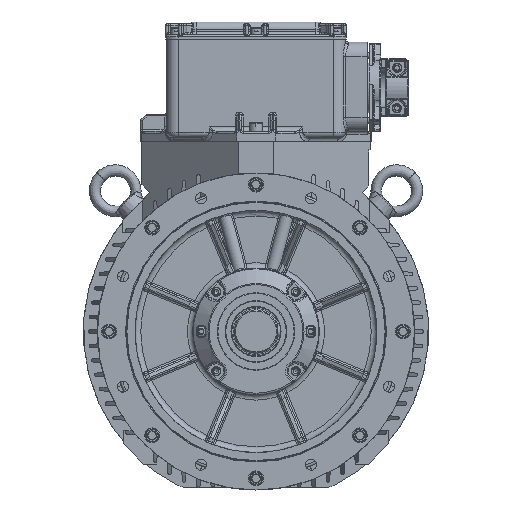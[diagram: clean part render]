
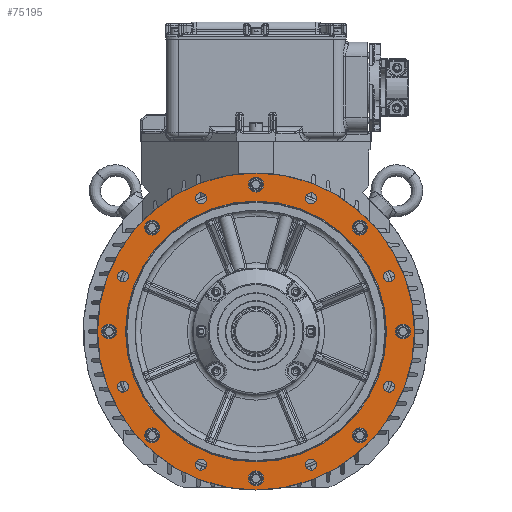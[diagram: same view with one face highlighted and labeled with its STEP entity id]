
A CAD part, left-side view. The second image highlights one B-rep face of the part: STEP entity #75195.
In plain terms, the highlighted planar face has unit normal (-1, 0, 0).
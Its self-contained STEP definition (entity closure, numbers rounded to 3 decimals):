
#1667=PLANE('',#79556);
#10981=CIRCLE('',#79544,275.);
#10982=CIRCLE('',#79554,226.4);
#10984=CIRCLE('',#79557,9.5);
#10985=CIRCLE('',#79558,9.5);
#10986=CIRCLE('',#79559,9.5);
#10987=CIRCLE('',#79560,9.5);
#10988=CIRCLE('',#79561,9.5);
#10989=CIRCLE('',#79562,9.5);
#10990=CIRCLE('',#79563,9.5);
#10991=CIRCLE('',#79564,9.5);
#10992=CIRCLE('',#79565,13.);
#10993=CIRCLE('',#79566,13.);
#10994=CIRCLE('',#79567,13.);
#10995=CIRCLE('',#79568,13.);
#10996=CIRCLE('',#79569,13.);
#10997=CIRCLE('',#79570,13.);
#10998=CIRCLE('',#79571,13.);
#10999=CIRCLE('',#79572,13.);
#18920=ORIENTED_EDGE('',*,*,#31984,.F.);
#18921=ORIENTED_EDGE('',*,*,#31985,.F.);
#18922=ORIENTED_EDGE('',*,*,#31986,.F.);
#18923=ORIENTED_EDGE('',*,*,#31987,.F.);
#18924=ORIENTED_EDGE('',*,*,#31988,.F.);
#18925=ORIENTED_EDGE('',*,*,#31989,.F.);
#18926=ORIENTED_EDGE('',*,*,#31990,.F.);
#18927=ORIENTED_EDGE('',*,*,#31991,.F.);
#18928=ORIENTED_EDGE('',*,*,#31992,.T.);
#18929=ORIENTED_EDGE('',*,*,#31993,.T.);
#18930=ORIENTED_EDGE('',*,*,#31994,.T.);
#18931=ORIENTED_EDGE('',*,*,#31995,.T.);
#18932=ORIENTED_EDGE('',*,*,#31996,.T.);
#18933=ORIENTED_EDGE('',*,*,#31997,.T.);
#18934=ORIENTED_EDGE('',*,*,#31998,.T.);
#18935=ORIENTED_EDGE('',*,*,#31999,.T.);
#18936=ORIENTED_EDGE('',*,*,#31980,.T.);
#18937=ORIENTED_EDGE('',*,*,#31982,.F.);
#31980=EDGE_CURVE('',#38864,#38864,#10981,.T.);
#31982=EDGE_CURVE('',#38866,#38866,#10982,.T.);
#31984=EDGE_CURVE('',#38868,#38868,#10984,.T.);
#31985=EDGE_CURVE('',#38869,#38869,#10985,.T.);
#31986=EDGE_CURVE('',#38870,#38870,#10986,.T.);
#31987=EDGE_CURVE('',#38871,#38871,#10987,.T.);
#31988=EDGE_CURVE('',#38872,#38872,#10988,.T.);
#31989=EDGE_CURVE('',#38873,#38873,#10989,.T.);
#31990=EDGE_CURVE('',#38874,#38874,#10990,.T.);
#31991=EDGE_CURVE('',#38875,#38875,#10991,.T.);
#31992=EDGE_CURVE('',#38876,#38876,#10992,.T.);
#31993=EDGE_CURVE('',#38877,#38877,#10993,.T.);
#31994=EDGE_CURVE('',#38878,#38878,#10994,.T.);
#31995=EDGE_CURVE('',#38879,#38879,#10995,.T.);
#31996=EDGE_CURVE('',#38880,#38880,#10996,.T.);
#31997=EDGE_CURVE('',#38881,#38881,#10997,.T.);
#31998=EDGE_CURVE('',#38882,#38882,#10998,.T.);
#31999=EDGE_CURVE('',#38883,#38883,#10999,.T.);
#38864=VERTEX_POINT('',#108759);
#38866=VERTEX_POINT('',#108782);
#38868=VERTEX_POINT('',#108787);
#38869=VERTEX_POINT('',#108789);
#38870=VERTEX_POINT('',#108791);
#38871=VERTEX_POINT('',#108793);
#38872=VERTEX_POINT('',#108795);
#38873=VERTEX_POINT('',#108797);
#38874=VERTEX_POINT('',#108799);
#38875=VERTEX_POINT('',#108801);
#38876=VERTEX_POINT('',#108803);
#38877=VERTEX_POINT('',#108805);
#38878=VERTEX_POINT('',#108807);
#38879=VERTEX_POINT('',#108809);
#38880=VERTEX_POINT('',#108811);
#38881=VERTEX_POINT('',#108813);
#38882=VERTEX_POINT('',#108815);
#38883=VERTEX_POINT('',#108817);
#44296=EDGE_LOOP('',(#18920));
#44297=EDGE_LOOP('',(#18921));
#44298=EDGE_LOOP('',(#18922));
#44299=EDGE_LOOP('',(#18923));
#44300=EDGE_LOOP('',(#18924));
#44301=EDGE_LOOP('',(#18925));
#44302=EDGE_LOOP('',(#18926));
#44303=EDGE_LOOP('',(#18927));
#44304=EDGE_LOOP('',(#18928));
#44305=EDGE_LOOP('',(#18929));
#44306=EDGE_LOOP('',(#18930));
#44307=EDGE_LOOP('',(#18931));
#44308=EDGE_LOOP('',(#18932));
#44309=EDGE_LOOP('',(#18933));
#44310=EDGE_LOOP('',(#18934));
#44311=EDGE_LOOP('',(#18935));
#44312=EDGE_LOOP('',(#18936));
#44313=EDGE_LOOP('',(#18937));
#48012=FACE_BOUND('',#44296,.T.);
#48013=FACE_BOUND('',#44297,.T.);
#48014=FACE_BOUND('',#44298,.T.);
#48015=FACE_BOUND('',#44299,.T.);
#48016=FACE_BOUND('',#44300,.T.);
#48017=FACE_BOUND('',#44301,.T.);
#48018=FACE_BOUND('',#44302,.T.);
#48019=FACE_BOUND('',#44303,.T.);
#48020=FACE_BOUND('',#44304,.T.);
#48021=FACE_BOUND('',#44305,.T.);
#48022=FACE_BOUND('',#44306,.T.);
#48023=FACE_BOUND('',#44307,.T.);
#48024=FACE_BOUND('',#44308,.T.);
#48025=FACE_BOUND('',#44309,.T.);
#48026=FACE_BOUND('',#44310,.T.);
#48027=FACE_BOUND('',#44311,.T.);
#48028=FACE_BOUND('',#44312,.T.);
#48029=FACE_BOUND('',#44313,.T.);
#75195=ADVANCED_FACE('',(#48012,#48013,#48014,#48015,#48016,#48017,#48018,
#48019,#48020,#48021,#48022,#48023,#48024,#48025,#48026,#48027,#48028,#48029),
#1667,.T.);
#79544=AXIS2_PLACEMENT_3D('',#108758,#89430,#89431);
#79554=AXIS2_PLACEMENT_3D('',#108781,#89450,#89451);
#79556=AXIS2_PLACEMENT_3D('',#108785,#89454,#89455);
#79557=AXIS2_PLACEMENT_3D('',#108786,#89456,#89457);
#79558=AXIS2_PLACEMENT_3D('',#108788,#89458,#89459);
#79559=AXIS2_PLACEMENT_3D('',#108790,#89460,#89461);
#79560=AXIS2_PLACEMENT_3D('',#108792,#89462,#89463);
#79561=AXIS2_PLACEMENT_3D('',#108794,#89464,#89465);
#79562=AXIS2_PLACEMENT_3D('',#108796,#89466,#89467);
#79563=AXIS2_PLACEMENT_3D('',#108798,#89468,#89469);
#79564=AXIS2_PLACEMENT_3D('',#108800,#89470,#89471);
#79565=AXIS2_PLACEMENT_3D('',#108802,#89472,#89473);
#79566=AXIS2_PLACEMENT_3D('',#108804,#89474,#89475);
#79567=AXIS2_PLACEMENT_3D('',#108806,#89476,#89477);
#79568=AXIS2_PLACEMENT_3D('',#108808,#89478,#89479);
#79569=AXIS2_PLACEMENT_3D('',#108810,#89480,#89481);
#79570=AXIS2_PLACEMENT_3D('',#108812,#89482,#89483);
#79571=AXIS2_PLACEMENT_3D('',#108814,#89484,#89485);
#79572=AXIS2_PLACEMENT_3D('',#108816,#89486,#89487);
#89430=DIRECTION('',(-1.,0.,0.));
#89431=DIRECTION('',(0.,0.,1.));
#89450=DIRECTION('',(-1.,0.,0.));
#89451=DIRECTION('',(0.,0.,1.));
#89454=DIRECTION('',(-1.,0.,0.));
#89455=DIRECTION('',(0.,0.,1.));
#89456=DIRECTION('',(-1.,0.,0.));
#89457=DIRECTION('',(0.,-1.,0.));
#89458=DIRECTION('',(-1.,0.,0.));
#89459=DIRECTION('',(0.,-1.,0.));
#89460=DIRECTION('',(-1.,0.,0.));
#89461=DIRECTION('',(0.,-1.,0.));
#89462=DIRECTION('',(-1.,0.,0.));
#89463=DIRECTION('',(0.,-1.,0.));
#89464=DIRECTION('',(-1.,0.,0.));
#89465=DIRECTION('',(0.,-1.,0.));
#89466=DIRECTION('',(-1.,0.,0.));
#89467=DIRECTION('',(0.,-1.,0.));
#89468=DIRECTION('',(-1.,0.,0.));
#89469=DIRECTION('',(0.,-1.,0.));
#89470=DIRECTION('',(-1.,0.,0.));
#89471=DIRECTION('',(0.,-1.,0.));
#89472=DIRECTION('',(1.,0.,0.));
#89473=DIRECTION('',(0.,0.,1.));
#89474=DIRECTION('',(1.,0.,0.));
#89475=DIRECTION('',(0.,0.,1.));
#89476=DIRECTION('',(1.,0.,0.));
#89477=DIRECTION('',(0.,0.,1.));
#89478=DIRECTION('',(1.,0.,0.));
#89479=DIRECTION('',(0.,0.,1.));
#89480=DIRECTION('',(1.,0.,0.));
#89481=DIRECTION('',(0.,0.,1.));
#89482=DIRECTION('',(1.,0.,0.));
#89483=DIRECTION('',(0.,0.,1.));
#89484=DIRECTION('',(1.,0.,0.));
#89485=DIRECTION('',(0.,0.,1.));
#89486=DIRECTION('',(1.,0.,0.));
#89487=DIRECTION('',(0.,0.,1.));
#108758=CARTESIAN_POINT('',(-64.,0.,0.));
#108759=CARTESIAN_POINT('',(-64.,0.,275.));
#108781=CARTESIAN_POINT('',(-64.,0.,0.));
#108782=CARTESIAN_POINT('',(-64.,0.,226.4));
#108785=CARTESIAN_POINT('',(-64.,0.,226.4));
#108786=CARTESIAN_POINT('',(-64.,-230.97,-95.671));
#108787=CARTESIAN_POINT('',(-64.,-240.47,-95.671));
#108788=CARTESIAN_POINT('',(-64.,-95.671,-230.97));
#108789=CARTESIAN_POINT('',(-64.,-105.171,-230.97));
#108790=CARTESIAN_POINT('',(-64.,95.671,-230.97));
#108791=CARTESIAN_POINT('',(-64.,86.171,-230.97));
#108792=CARTESIAN_POINT('',(-64.,230.97,-95.671));
#108793=CARTESIAN_POINT('',(-64.,221.47,-95.671));
#108794=CARTESIAN_POINT('',(-64.,230.97,95.671));
#108795=CARTESIAN_POINT('',(-64.,221.47,95.671));
#108796=CARTESIAN_POINT('',(-64.,95.671,230.97));
#108797=CARTESIAN_POINT('',(-64.,86.171,230.97));
#108798=CARTESIAN_POINT('',(-64.,-95.671,230.97));
#108799=CARTESIAN_POINT('',(-64.,-105.171,230.97));
#108800=CARTESIAN_POINT('',(-64.,-230.97,95.671));
#108801=CARTESIAN_POINT('',(-64.,-240.47,95.671));
#108802=CARTESIAN_POINT('',(-64.,-180.312,-180.312));
#108803=CARTESIAN_POINT('',(-64.,-180.312,-167.312));
#108804=CARTESIAN_POINT('',(-64.,0.,-255.));
#108805=CARTESIAN_POINT('',(-64.,0.,-242.));
#108806=CARTESIAN_POINT('',(-64.,180.312,-180.312));
#108807=CARTESIAN_POINT('',(-64.,180.312,-167.312));
#108808=CARTESIAN_POINT('',(-64.,255.,0.));
#108809=CARTESIAN_POINT('',(-64.,255.,13.));
#108810=CARTESIAN_POINT('',(-64.,180.312,180.312));
#108811=CARTESIAN_POINT('',(-64.,180.312,193.312));
#108812=CARTESIAN_POINT('',(-64.,0.,255.));
#108813=CARTESIAN_POINT('',(-64.,0.,268.));
#108814=CARTESIAN_POINT('',(-64.,-180.312,180.312));
#108815=CARTESIAN_POINT('',(-64.,-180.312,193.312));
#108816=CARTESIAN_POINT('',(-64.,-255.,0.));
#108817=CARTESIAN_POINT('',(-64.,-255.,13.));
